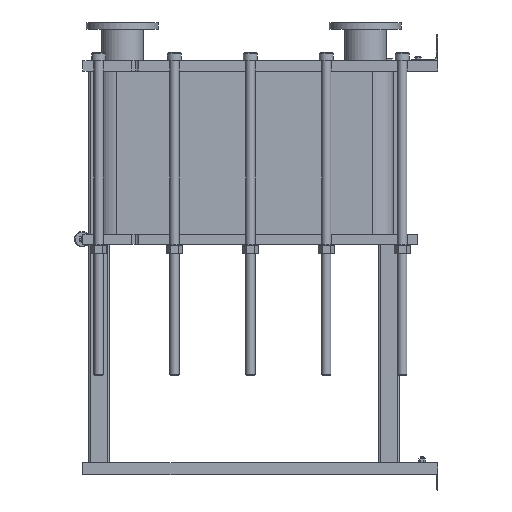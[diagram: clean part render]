
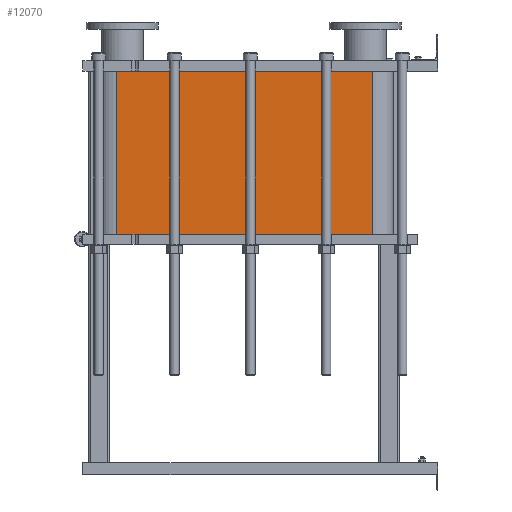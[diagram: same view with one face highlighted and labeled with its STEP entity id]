
A CAD part, left-side view. The second image highlights one B-rep face of the part: STEP entity #12070.
In plain terms, the highlighted planar face has unit normal (-1, 0, 0).
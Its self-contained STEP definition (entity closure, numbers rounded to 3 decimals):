
#1064=LINE('',#21140,#2164);
#1065=LINE('',#21144,#2165);
#1066=LINE('',#21146,#2166);
#1067=LINE('',#21147,#2167);
#2164=VECTOR('',#15790,10.);
#2165=VECTOR('',#15795,10.);
#2166=VECTOR('',#15796,10.);
#2167=VECTOR('',#15797,10.);
#3304=FACE_OUTER_BOUND('',#4091,.T.);
#4091=EDGE_LOOP('',(#9793,#9794,#9795,#9796));
#5677=VERTEX_POINT('',#21137);
#5678=VERTEX_POINT('',#21139);
#5679=VERTEX_POINT('',#21143);
#5680=VERTEX_POINT('',#21145);
#7118=EDGE_CURVE('',#5678,#5677,#1064,.T.);
#7120=EDGE_CURVE('',#5677,#5679,#1065,.T.);
#7121=EDGE_CURVE('',#5680,#5679,#1066,.T.);
#7122=EDGE_CURVE('',#5680,#5678,#1067,.T.);
#9793=ORIENTED_EDGE('',*,*,#7120,.T.);
#9794=ORIENTED_EDGE('',*,*,#7121,.F.);
#9795=ORIENTED_EDGE('',*,*,#7122,.T.);
#9796=ORIENTED_EDGE('',*,*,#7118,.T.);
#11441=PLANE('',#13191);
#12070=ADVANCED_FACE('',(#3304),#11441,.T.);
#13191=AXIS2_PLACEMENT_3D('',#21142,#15793,#15794);
#15790=DIRECTION('',(0.,0.,-1.));
#15793=DIRECTION('center_axis',(-1.,0.,0.));
#15794=DIRECTION('ref_axis',(0.,1.,0.));
#15795=DIRECTION('',(0.,-1.,0.));
#15796=DIRECTION('',(0.,0.,-1.));
#15797=DIRECTION('',(0.,1.,0.));
#21137=CARTESIAN_POINT('',(-248.152,1243.818,-631.35));
#21139=CARTESIAN_POINT('',(-248.152,1243.818,0.));
#21140=CARTESIAN_POINT('',(-248.152,1243.818,0.));
#21142=CARTESIAN_POINT('Origin',(-248.152,251.818,0.));
#21143=CARTESIAN_POINT('',(-248.152,251.818,-631.35));
#21144=CARTESIAN_POINT('',(-248.152,499.818,-631.35));
#21145=CARTESIAN_POINT('',(-248.152,251.818,0.));
#21146=CARTESIAN_POINT('',(-248.152,251.818,0.));
#21147=CARTESIAN_POINT('',(-248.152,251.818,0.));
